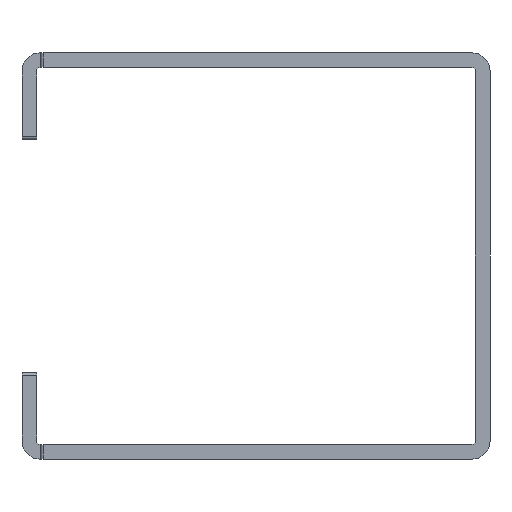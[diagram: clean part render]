
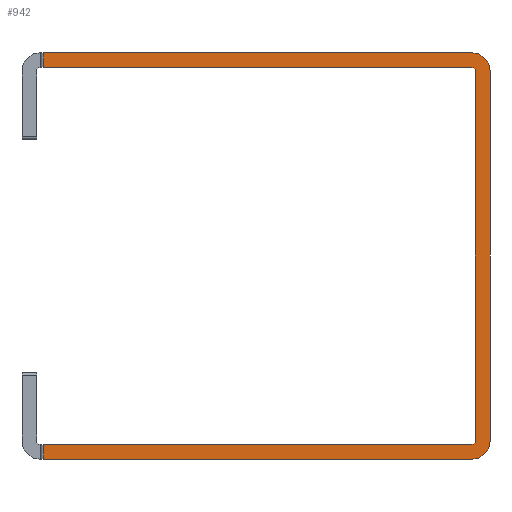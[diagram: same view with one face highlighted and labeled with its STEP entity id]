
A CAD part, front view. The second image highlights one B-rep face of the part: STEP entity #942.
In plain terms, the highlighted planar face has unit normal (0, -1, 0).
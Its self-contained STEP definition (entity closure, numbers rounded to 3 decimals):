
#134=CARTESIAN_POINT('',(1501.,183.5,7.5));
#135=VERTEX_POINT('',#134);
#143=CARTESIAN_POINT('',(1619.,183.5,7.5));
#144=VERTEX_POINT('',#143);
#145=CARTESIAN_POINT('',(1619.,183.5,7.5));
#146=DIRECTION('',(-1.,0.,0.));
#147=VECTOR('',#146,118.);
#148=LINE('',#145,#147);
#149=EDGE_CURVE('',#144,#135,#148,.T.);
#272=CARTESIAN_POINT('',(1619.,183.5,3.5));
#273=VERTEX_POINT('',#272);
#280=CARTESIAN_POINT('',(1501.,183.5,3.5));
#281=VERTEX_POINT('',#280);
#282=CARTESIAN_POINT('',(1501.,183.5,3.5));
#283=DIRECTION('',(1.,-0.,0.));
#284=VECTOR('',#283,118.);
#285=LINE('',#282,#284);
#286=EDGE_CURVE('',#281,#273,#285,.T.);
#558=CARTESIAN_POINT('',(1501.,183.5,-100.5));
#559=VERTEX_POINT('',#558);
#567=CARTESIAN_POINT('',(1619.,183.5,-100.5));
#568=VERTEX_POINT('',#567);
#569=CARTESIAN_POINT('',(1501.,183.5,-100.5));
#570=DIRECTION('',(1.,-0.,0.));
#571=VECTOR('',#570,118.);
#572=LINE('',#569,#571);
#573=EDGE_CURVE('',#559,#568,#572,.T.);
#693=CARTESIAN_POINT('',(1619.,183.5,-104.5));
#694=VERTEX_POINT('',#693);
#701=CARTESIAN_POINT('',(1501.,183.5,-104.5));
#702=VERTEX_POINT('',#701);
#703=CARTESIAN_POINT('',(1619.,183.5,-104.5));
#704=DIRECTION('',(-1.,0.,0.));
#705=VECTOR('',#704,118.);
#706=LINE('',#703,#705);
#707=EDGE_CURVE('',#694,#702,#706,.T.);
#871=CARTESIAN_POINT('',(2000.,183.5,8316.5));
#872=DIRECTION('',(0.,1.,0.));
#873=DIRECTION('',(1.,-0.,0.));
#874=AXIS2_PLACEMENT_3D('',#871,#872,#873);
#875=PLANE('',#874);
#876=ORIENTED_EDGE('',*,*,#707,.F.);
#877=CARTESIAN_POINT('',(1624.,183.5,-99.5));
#878=VERTEX_POINT('',#877);
#879=CARTESIAN_POINT('',(1619.,183.5,-99.5));
#880=DIRECTION('',(-0.,-1.,-0.));
#881=DIRECTION('',(-1.,0.,0.));
#882=AXIS2_PLACEMENT_3D('',#879,#880,#881);
#883=CIRCLE('',#882,5.);
#884=EDGE_CURVE('',#694,#878,#883,.T.);
#885=ORIENTED_EDGE('',*,*,#884,.T.);
#886=CARTESIAN_POINT('',(1624.,183.5,2.5));
#887=VERTEX_POINT('',#886);
#888=CARTESIAN_POINT('',(1624.,183.5,2.5));
#889=DIRECTION('',(0.,0.,-1.));
#890=VECTOR('',#889,102.);
#891=LINE('',#888,#890);
#892=EDGE_CURVE('',#887,#878,#891,.T.);
#893=ORIENTED_EDGE('',*,*,#892,.F.);
#894=CARTESIAN_POINT('',(1619.,183.5,2.5));
#895=DIRECTION('',(-0.,-1.,-0.));
#896=DIRECTION('',(-1.,0.,0.));
#897=AXIS2_PLACEMENT_3D('',#894,#895,#896);
#898=CIRCLE('',#897,5.);
#899=EDGE_CURVE('',#887,#144,#898,.T.);
#900=ORIENTED_EDGE('',*,*,#899,.T.);
#901=ORIENTED_EDGE('',*,*,#149,.T.);
#902=CARTESIAN_POINT('',(1501.,183.5,7.5));
#903=DIRECTION('',(0.,0.,-1.));
#904=VECTOR('',#903,4.);
#905=LINE('',#902,#904);
#906=EDGE_CURVE('',#135,#281,#905,.T.);
#907=ORIENTED_EDGE('',*,*,#906,.T.);
#908=ORIENTED_EDGE('',*,*,#286,.T.);
#909=CARTESIAN_POINT('',(1620.,183.5,2.5));
#910=VERTEX_POINT('',#909);
#911=CARTESIAN_POINT('',(1619.,183.5,2.5));
#912=DIRECTION('',(0.,1.,0.));
#913=DIRECTION('',(-1.,0.,0.));
#914=AXIS2_PLACEMENT_3D('',#911,#912,#913);
#915=CIRCLE('',#914,1.);
#916=EDGE_CURVE('',#273,#910,#915,.T.);
#917=ORIENTED_EDGE('',*,*,#916,.T.);
#918=CARTESIAN_POINT('',(1620.,183.5,-99.5));
#919=VERTEX_POINT('',#918);
#920=CARTESIAN_POINT('',(1620.,183.5,-99.5));
#921=DIRECTION('',(-0.,-0.,1.));
#922=VECTOR('',#921,102.);
#923=LINE('',#920,#922);
#924=EDGE_CURVE('',#919,#910,#923,.T.);
#925=ORIENTED_EDGE('',*,*,#924,.F.);
#926=CARTESIAN_POINT('',(1619.,183.5,-99.5));
#927=DIRECTION('',(0.,1.,0.));
#928=DIRECTION('',(-1.,0.,0.));
#929=AXIS2_PLACEMENT_3D('',#926,#927,#928);
#930=CIRCLE('',#929,1.);
#931=EDGE_CURVE('',#919,#568,#930,.T.);
#932=ORIENTED_EDGE('',*,*,#931,.T.);
#933=ORIENTED_EDGE('',*,*,#573,.F.);
#934=CARTESIAN_POINT('',(1501.,183.5,-100.5));
#935=DIRECTION('',(0.,0.,-1.));
#936=VECTOR('',#935,4.);
#937=LINE('',#934,#936);
#938=EDGE_CURVE('',#559,#702,#937,.T.);
#939=ORIENTED_EDGE('',*,*,#938,.T.);
#940=EDGE_LOOP('',(#876,#885,#893,#900,#901,#907,#908,#917,#925,#932,#933,#939));
#941=FACE_BOUND('',#940,.T.);
#942=ADVANCED_FACE('',(#941),#875,.F.);
